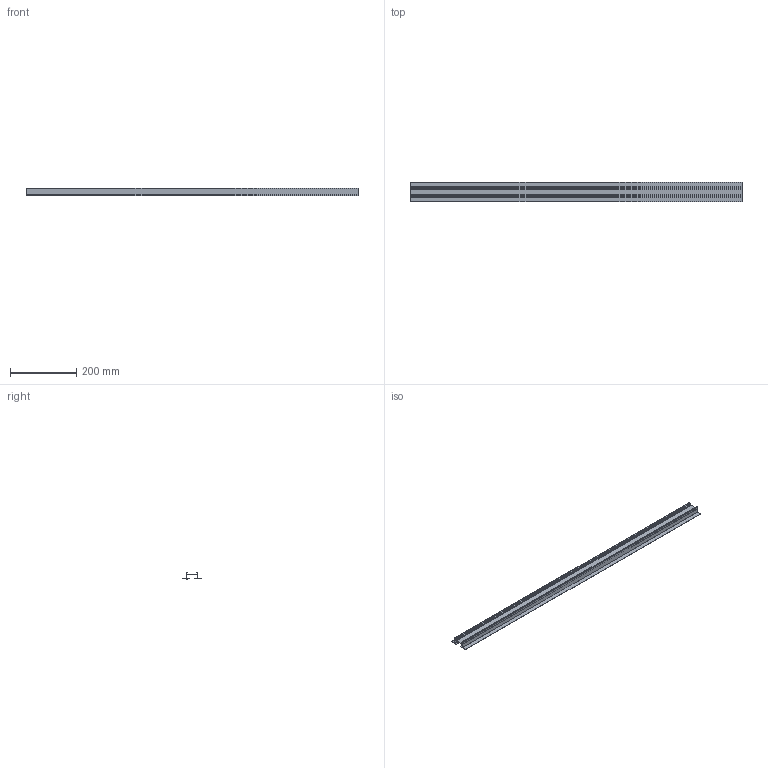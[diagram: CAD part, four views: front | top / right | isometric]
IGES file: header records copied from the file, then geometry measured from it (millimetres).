
Start section: SolidWorks IGES file using NURBS representation for surfaces
Global section: file name: Z:\Modele 3D_WWW\_KOLEKCJE WWW\PROFILE SYSTEM\PROFILE-RECESSED-TRACK-1M-9012-9013\PROFILE-RECESSED-TRACK-1M-9012-9013.IGS; native system: SolidWorks 2021; preprocessor: SolidWorks 2021; author: gabriela.tworek; date: 220215.090512; units: millimetre
Bounding box: 1000 x 60 x 21.2 mm (x, y, z)
Surface area: 247262.7 mm2 (no closed solid volume)
Topology: 0 solids, 0 shells, 41 faces, 234 edges, 234 vertices
Faces by surface type: bspline 41
